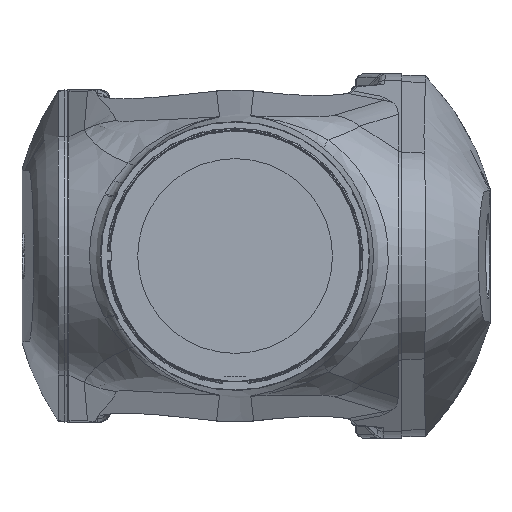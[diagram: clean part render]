
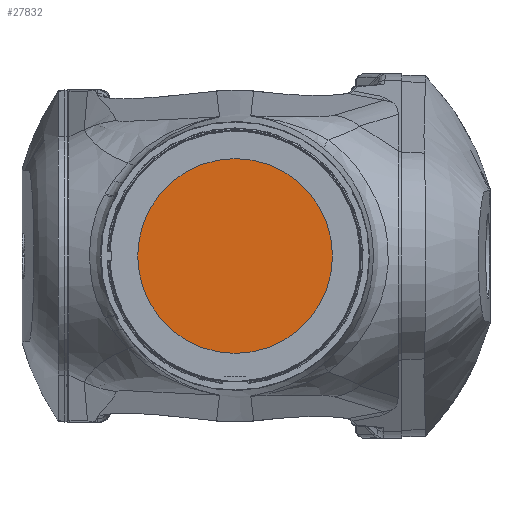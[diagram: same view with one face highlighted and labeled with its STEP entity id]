
A CAD part, left-side view. The second image highlights one B-rep face of the part: STEP entity #27832.
In plain terms, the highlighted planar face has unit normal (-1, 0, 0).
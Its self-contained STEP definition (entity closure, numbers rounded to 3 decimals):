
#303 = CARTESIAN_POINT ( 'NONE',  ( 197., 0., 2205. ) ) ;
#5445 = EDGE_CURVE ( 'NONE', #32875, #32875, #21773, .T. ) ;
#13172 = DIRECTION ( 'NONE',  ( -1., 0., 0. ) ) ;
#18312 = CARTESIAN_POINT ( 'NONE',  ( 197., 0., 2205. ) ) ;
#19383 = AXIS2_PLACEMENT_3D ( 'NONE', #303, #35340, #27120 ) ;
#19664 = ORIENTED_EDGE ( 'NONE', *, *, #5445, .T. ) ;
#21745 = AXIS2_PLACEMENT_3D ( 'NONE', #18312, #13172, #29965 ) ;
#21773 = CIRCLE ( 'NONE', #21745, 85. ) ;
#24217 = EDGE_LOOP ( 'NONE', ( #19664 ) ) ;
#27120 = DIRECTION ( 'NONE',  ( 0., -1., 0. ) ) ;
#27832 = ADVANCED_FACE ( 'NONE', ( #32847 ), #35715, .T. ) ;
#29965 = DIRECTION ( 'NONE',  ( 0., -1., 0. ) ) ;
#32847 = FACE_OUTER_BOUND ( 'NONE', #24217, .T. ) ;
#32875 = VERTEX_POINT ( 'NONE', #33259 ) ;
#33259 = CARTESIAN_POINT ( 'NONE',  ( 197., -85., 2205. ) ) ;
#35340 = DIRECTION ( 'NONE',  ( -1., 0., 0. ) ) ;
#35715 = PLANE ( 'NONE',  #19383 ) ;
